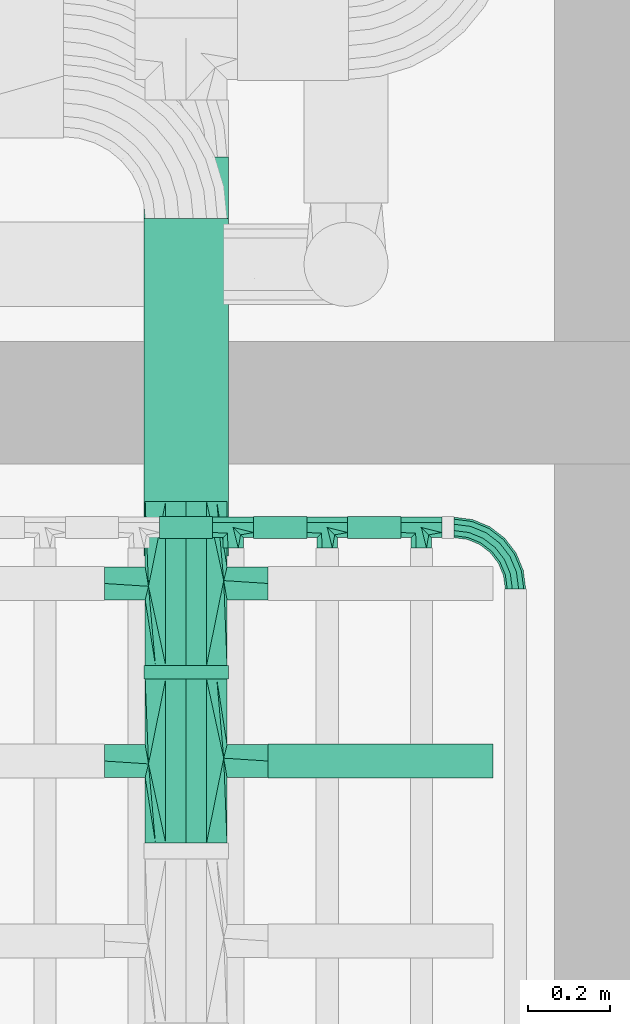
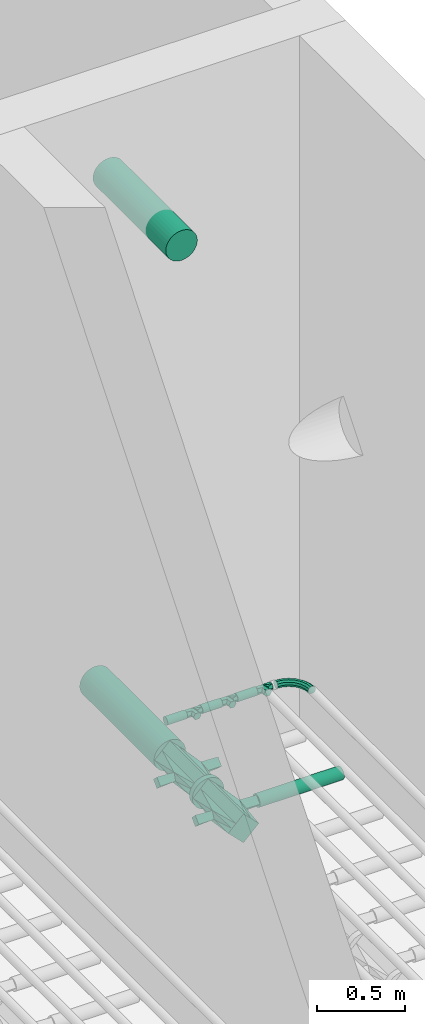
# One storey, part 23 of 28: 7 flow segments, 6 flow fittings.
"""IFC2X3 building model written with IfcOpenShell, lengths in millimetres."""

from ifc_helpers import new_model, entity, si_unit, converted_unit, direction, frame, frame_2d, origin, origin_2d_with_axis, place, context, subcontext, project, spatial, circle, extrude, faceted_brep, source, transform, mapped, material, type_object, type_shapes, element, save


model = new_model("IFC2X3")

# Units and contexts
model_context = context("Model", 3, precision=0.01, world=origin(), true_north=direction((6.123031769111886e-17, 1.0)))
body_context = subcontext(model_context, "Body", "Model", "MODEL_VIEW")
ifc_project = project(units=[si_unit("LENGTHUNIT", "METRE", prefix="MILLI"), converted_unit("PLANEANGLEUNIT", "DEGREE", entity("IfcPlaneAngleMeasure", 0.017453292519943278), si_unit("PLANEANGLEUNIT", "RADIAN"), dimensions=[0, 0, 0, 0, 0, 0, 0]), si_unit("AREAUNIT", "SQUARE_METRE")], contexts=[model_context])

# Site, building, storey
site_placement = place(None, frame((7776.576483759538, 118.3519876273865, 0.0)))
site = spatial("IfcSite", under=ifc_project, at=site_placement, Name="Default", CompositionType="ELEMENT")
building_placement = place(site_placement, origin())
building = spatial("IfcBuilding", under=site, at=building_placement, Name="Bygning (endres i Project Information)", CompositionType="ELEMENT")
storey_placement = place(building_placement, frame((0.0, 0.0, 14000.0)))
storey = spatial("IfcBuildingStorey", under=building, at=storey_placement, Name="Plan U1 - Arbeid", CompositionType="ELEMENT", Elevation=14000.000000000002)

# Flow segments
ifc_material = material(Name="SS 2343 Rustfritt stål, prosessrør, generisk")
pipe_segment_type = type_object("IfcPipeSegmentType", Name="Pipe Types:AISI 304L Rustfritt", PredefinedType="NOTDEFINED", material=ifc_material)
flow_segment_1_placement = place(storey_placement, origin())
element("IfcFlowSegment", 1, at=flow_segment_1_placement, inside=storey, type_object=pipe_segment_type, Name="Pipe Types:AISI 304L Rustfritt", ObjectType="Pipe Types:AISI 304L Rustfritt", context=body_context, shape_type="SweptSolid", body=[
    extrude(circle(Radius=103.0, at=frame_2d((0.0, 2.1657342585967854e-12), x_axis=(1.0, 0.0))), frame((31074.00137486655, 23972.377048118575, 3803.0), z_axis=(0.0, 1.0, 0.0), x_axis=(-1.0, 0.0, 0.0)), (0.0, 0.0, 1.0), 825.3802576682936),
])
flow_segment_2_placement = place(storey_placement, origin())
element("IfcFlowSegment", 2, at=flow_segment_2_placement, inside=storey, type_object=pipe_segment_type, Name="Pipe Types:AISI 304L Rustfritt", ObjectType="Pipe Types:AISI 304L Rustfritt", context=body_context, shape_type="SweptSolid", body=[
    extrude(circle(Radius=103.0, at=frame_2d((-4.331468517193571e-12, 0.0), x_axis=(1.0, 0.0))), frame((31074.001374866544, 24105.757305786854, 203.0), z_axis=(0.0, 1.0, 0.0), x_axis=(-1.0, 0.0, 0.0)), (0.0, 0.0, 1.0), 841.9999999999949),
])
flow_segment_3_placement = place(storey_placement, origin())
element("IfcFlowSegment", 3, at=flow_segment_3_placement, inside=storey, type_object=pipe_segment_type, Name="Pipe Types:AISI 304L Rustfritt", ObjectType="Pipe Types:AISI 304L Rustfritt", context=body_context, shape_type="SweptSolid", body=[
    extrude(circle(Radius=42.0, at=origin_2d_with_axis()), frame((31274.00137486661, 23471.757305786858, 203.0), z_axis=(1.0, 0.0, 0.0), x_axis=(0.0, -1.0, 0.0)), (0.0, 0.0, 1.0), 549.99999999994),
])
flow_segment_4_placement = place(storey_placement, origin())
element("IfcFlowSegment", 4, at=flow_segment_4_placement, inside=storey, type_object=pipe_segment_type, Name="Pipe Types:AISI 304L Rustfritt", ObjectType="Pipe Types:AISI 304L Rustfritt", context=body_context, shape_type="SweptSolid", body=[
    extrude(circle(Radius=103.0, at=origin_2d_with_axis()), frame((31074.001374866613, 23671.757305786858, 203.0), z_axis=(0.0, 1.0, 0.0), x_axis=(-1.0, 0.0, 0.0)), (0.0, 0.0, 1.0), 33.999999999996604),
])
flow_segment_5_placement = place(storey_placement, origin())
element("IfcFlowSegment", 5, at=flow_segment_5_placement, inside=storey, type_object=pipe_segment_type, Name="Pipe Types:AISI 304L Rustfritt", ObjectType="Pipe Types:AISI 304L Rustfritt", context=body_context, shape_type="SweptSolid", body=[
    extrude(circle(Radius=27.0, at=frame_2d((0.0, -2.1657342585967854e-12), x_axis=(1.0, 0.0))), frame((31009.001374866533, 24042.757305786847, 500.0), z_axis=(1.0, 0.0, 0.0), x_axis=(0.0, -1.0, 0.0)), (0.0, 0.0, 1.0), 130.00000000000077),
])
flow_segment_6_placement = place(storey_placement, origin())
element("IfcFlowSegment", 6, at=flow_segment_6_placement, inside=storey, type_object=pipe_segment_type, Name="Pipe Types:AISI 304L Rustfritt", ObjectType="Pipe Types:AISI 304L Rustfritt", context=body_context, shape_type="SweptSolid", body=[
    extrude(circle(Radius=27.0, at=frame_2d((0.0, -2.1657342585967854e-12), x_axis=(1.0, 0.0))), frame((31239.001374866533, 24042.757305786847, 500.0), z_axis=(1.0, 0.0, 0.0), x_axis=(0.0, -1.0, 0.0)), (0.0, 0.0, 1.0), 130.00000000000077),
])
flow_segment_7_placement = place(storey_placement, origin())
element("IfcFlowSegment", 7, at=flow_segment_7_placement, inside=storey, type_object=pipe_segment_type, Name="Pipe Types:AISI 304L Rustfritt", ObjectType="Pipe Types:AISI 304L Rustfritt", context=body_context, shape_type="SweptSolid", body=[
    extrude(circle(Radius=27.0, at=frame_2d((0.0, -2.1657342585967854e-12), x_axis=(1.0, 0.0))), frame((31469.001374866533, 24042.757305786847, 500.0), z_axis=(1.0, 0.0, 0.0), x_axis=(0.0, -1.0, 0.0)), (0.0, 0.0, 1.0), 130.00000000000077),
])

# Flow fittings
pipe_fitting_type_1 = type_object("IfcPipeFittingType", Name="VA_prosess_rustfritt_kryss:VA_prosess_rustfritt_kryss", PredefinedType="NOTDEFINED", material=ifc_material)
shared_shape_1 = source(origin(), body_context, "Body", "Brep", [
    faceted_brep([(-200.0, -100.0, 0.0), (-200.0, -50.0, 50.0), (-200.0, 0.0, 100.0), (-200.0, 50.0, 50.0), (-200.0, 75.0, 25.0), (-200.0, 100.0, 0.0), (-200.0, 50.0, -50.0), (-200.0, 0.0, -100.0), (-200.0, -50.0, -50.0), (-200.0, -75.0, -25.0), (200.0, 50.0, -50.0), (200.0, 75.0, -25.0), (200.0, 100.0, 0.0), (200.0, 50.0, 50.0), (200.0, 0.0, 100.0), (200.0, -50.0, 50.0), (200.0, -75.0, 25.0), (200.0, -100.0, 0.0), (200.0, -50.0, -50.0), (200.0, 0.0, -100.0), (40.0, -100.0, 0.0), (-7.006670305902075, 91.91895032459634, 39.381551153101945), (-40.0, -100.0, 0.0), (-28.24833242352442, -97.97973758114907, 9.845387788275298), (-16.496664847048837, -95.9594751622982, 19.690775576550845), (-4.744997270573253, -93.93921274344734, 29.53616336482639), (7.00667030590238, -91.91895032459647, 39.38155115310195), (23.50333515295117, -95.95947516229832, 19.690775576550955), (-23.503335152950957, 95.95947516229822, 19.69077557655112), (-40.0, 100.0, 0.0), (40.0, 100.0, 0.0), (28.248332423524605, 97.97973758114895, 9.845387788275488), (16.496664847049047, 95.95947516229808, 19.690775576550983), (4.744997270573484, 93.93921274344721, 29.536163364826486), (-7.017574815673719, -91.91978218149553, -39.37960949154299), (-23.508787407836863, -95.95989109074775, -19.68980474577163), (-28.245606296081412, 97.97994554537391, -9.844902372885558), (-16.491212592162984, 95.95989109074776, -19.689804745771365), (-4.736818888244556, 93.93983663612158, -29.534707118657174), (7.017574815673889, 91.91978218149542, -39.37960949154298), (23.508787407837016, 95.95989109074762, -19.689804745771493), (28.24560629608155, -97.97994554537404, -9.844902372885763), (16.49121259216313, -95.95989109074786, -19.689804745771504), (4.736818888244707, -93.9398366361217, -29.53470711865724), (19.233483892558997, -200.0, -20.76651610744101), (29.616741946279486, -200.0, -10.383258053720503), (40.0, -200.0, 0.0), (20.0, -200.0, 20.0), (0.0, -200.0, 40.0), (-19.2334837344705, -200.0, 20.76651626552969), (-29.616741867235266, -200.0, 10.383258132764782), (-40.0, -200.0, 0.0), (-20.0, -200.0, -20.0), (0.0, -200.0, -40.0), (-19.23348389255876, 200.0, -20.766516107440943), (-29.616741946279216, 200.0, -10.38325805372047), (-40.0, 200.0, 0.0), (-20.0, 200.0, 20.0), (0.0, 200.0, 40.0), (19.233483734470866, 200.0, 20.76651626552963), (29.616741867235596, 200.0, 10.383258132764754), (40.0, 200.0, 0.0), (20.0, 200.0, -20.0), (0.0, 200.0, -40.0)], [[[0, 1, 2, 3, 4, 5, 6, 7, 8, 9]], [[10, 11, 12, 13, 14, 15, 16, 17, 18, 19]], [[17, 16, 20]], [[15, 14, 2, 1]], [[3, 13, 21]], [[0, 22, 23, 24, 25, 26]], [[0, 26, 1]], [[16, 26, 27, 20]], [[4, 21, 28, 29]], [[21, 13, 12]], [[26, 16, 15]], [[12, 30, 31, 32, 33, 21]], [[29, 5, 4]], [[2, 14, 13, 3]], [[21, 4, 3]], [[1, 26, 15]], [[11, 30, 12]], [[10, 19, 7, 6]], [[34, 9, 8]], [[9, 34, 35, 22]], [[5, 29, 36, 37, 38, 39]], [[39, 11, 10]], [[5, 39, 6]], [[34, 18, 17]], [[11, 39, 40, 30]], [[17, 20, 41, 42, 43, 34]], [[22, 0, 9]], [[7, 19, 18, 8]], [[6, 39, 10]], [[8, 18, 34]], [[44, 45, 46, 47, 48, 49, 50, 51, 52, 53]], [[25, 24, 23, 49]], [[49, 23, 50]], [[50, 22, 51]], [[49, 48, 25]], [[26, 48, 47]], [[47, 27, 26]], [[20, 27, 46]], [[46, 27, 47]], [[48, 26, 25]], [[22, 50, 23]], [[43, 42, 41, 44]], [[44, 41, 45]], [[45, 20, 46]], [[44, 53, 43]], [[34, 53, 52]], [[52, 35, 34]], [[22, 35, 51]], [[51, 35, 52]], [[53, 34, 43]], [[20, 45, 41]], [[54, 55, 56, 57, 58, 59, 60, 61, 62, 63]], [[33, 32, 31, 59]], [[59, 31, 60]], [[60, 30, 61]], [[59, 58, 33]], [[21, 58, 57]], [[57, 28, 21]], [[29, 28, 56]], [[56, 28, 57]], [[58, 21, 33]], [[30, 60, 31]], [[38, 37, 36, 54]], [[54, 36, 55]], [[55, 29, 56]], [[54, 63, 38]], [[39, 63, 62]], [[62, 40, 39]], [[30, 40, 61]], [[61, 40, 62]], [[63, 39, 38]], [[29, 55, 36]]]),
])
type_shapes(pipe_fitting_type_1, [shared_shape_1])
for number, where, z_axis, x_axis in (
    (8, (31074.001374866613, 23905.757305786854, 203.0), (0.0, 0.0, 1.0), (0.0, 1.0, 0.0)),
    (9, (31074.001374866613, 23471.757305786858, 203.0), (0.0, 0.0, 1.0), (0.0, 1.0, 0.0)),
):
    element("IfcFlowFitting", number, at=place(storey_placement, frame(where, z_axis=z_axis, x_axis=x_axis)), inside=storey, type_object=pipe_fitting_type_1, material=ifc_material, Name="VA_prosess_rustfritt_kryss:VA_prosess_rustfritt_kryss", ObjectType="VA_prosess_rustfritt_kryss:VA_prosess_rustfritt_kryss", context=body_context, shape_type="MappedRepresentation", body=[
        mapped(shared_shape_1, transform((0.0, 0.0, 0.0), scale=1.0)),
    ])
pipe_fitting_type_2 = type_object("IfcPipeFittingType", Name="VA_prosess_rustfritt_bend_D+100:VA_prosess_rustfritt_bend_D+100", PredefinedType="NOTDEFINED", material=ifc_material)
shared_shape_2 = source(origin(), body_context, "Body", "Brep", [
    faceted_brep([(-104.70666710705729, -19.03701960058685, 0.0), (-105.9424180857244, -14.425134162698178, 14.694631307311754), (-150.0, -20.22542485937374, 14.694631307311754), (-150.0, -25.0, 0.0), (-109.17765614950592, -2.351061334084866, 23.776412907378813), (-150.0, -7.725424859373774, 23.776412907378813), (-113.17663031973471, 12.573313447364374, 23.776412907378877), (-150.0, 7.725424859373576, 23.776412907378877), (-116.41186838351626, 24.647386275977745, 14.694631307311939), (-150.0, 20.225424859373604, 14.694631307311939), (-117.6476193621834, 29.259271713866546, 0.0), (-150.0, 25.0, 0.0), (-116.41186838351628, 24.647386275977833, -14.69463130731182), (-150.0, 20.225424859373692, -14.69463130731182), (-113.17663031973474, 12.573313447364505, -23.77641290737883), (-150.0, 7.725424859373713, -23.77641290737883), (-109.17765614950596, -2.351061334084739, -23.776412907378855), (-150.0, -7.725424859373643, -23.776412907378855), (-105.94241808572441, -14.425134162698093, -14.694631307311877), (-150.0, -20.22542485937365, -14.694631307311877), (-62.49999999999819, -1.554445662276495, 0.0), (-64.88728757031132, 2.5804577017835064, 14.694631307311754), (-71.13728757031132, 13.405775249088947, 23.776412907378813), (-78.86271242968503, 26.78660361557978, 23.776412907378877), (-85.11271242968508, 37.61192116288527, 14.694631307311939), (-87.49999999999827, 41.746824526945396, 0.0), (-85.11271242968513, 37.611921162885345, -14.69463130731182), (-78.8627124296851, 26.786603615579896, -23.77641290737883), (-71.13728757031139, 13.40577524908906, -23.776412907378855), (-64.88728757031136, 2.5804577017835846, -14.694631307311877), (-26.256313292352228, 26.25631329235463, 0.0), (-29.63244775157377, 29.632447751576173, 14.694631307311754), (-38.47128251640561, 38.471282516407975, 23.776412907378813), (-49.396683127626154, 49.39668312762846, 23.776412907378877), (-58.235517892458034, 58.23551789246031, 14.694631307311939), (-61.611652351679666, 61.61165235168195, 0.0), (-58.23551789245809, 58.235517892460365, -14.69463130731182), (-49.39668312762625, 49.396683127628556, -23.77641290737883), (-38.4712825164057, 38.47128251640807, -23.776412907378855), (-29.632447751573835, 29.632447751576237, -14.694631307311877), (1.5544456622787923, 62.50000000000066, 0.0), (-2.580457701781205, 64.8872875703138, 14.694631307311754), (-13.405775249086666, 71.13728757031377, 23.776412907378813), (-26.78660361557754, 78.86271242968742, 23.776412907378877), (-37.61192116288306, 85.1127124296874, 14.694631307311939), (-41.746824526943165, 87.50000000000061, 0.0), (-37.611921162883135, 85.11271242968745, -14.69463130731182), (-26.786603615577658, 78.86271242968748, -23.77641290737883), (-13.40577524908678, 71.13728757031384, -23.776412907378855), (-2.5804577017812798, 64.88728757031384, -14.694631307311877), (19.037019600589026, 104.70666710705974, 0.0), (14.425134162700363, 105.94241808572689, 14.694631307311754), (2.351061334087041, 109.17765614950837, 23.776412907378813), (-12.57331344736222, 113.17663031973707, 23.776412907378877), (-24.647386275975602, 116.41186838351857, 14.694631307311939), (-29.259271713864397, 117.64761936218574, 0.0), (-24.64738627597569, 116.4118683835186, -14.69463130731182), (-12.573313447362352, 113.17663031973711, -23.77641290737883), (2.351061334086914, 109.1776561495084, -23.776412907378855), (14.425134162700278, 105.9424180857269, -14.694631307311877), (25.0, 150.0, 0.0), (20.22542485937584, 150.0, 14.694631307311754), (7.725424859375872, 150.0, 23.776412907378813), (-7.725424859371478, 150.0, 23.776412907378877), (-20.225424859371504, 150.0, 14.694631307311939), (-25.0, 150.0, 0.0), (-20.225424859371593, 150.0, -14.69463130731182), (-7.725424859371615, 150.0, -23.77641290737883), (7.725424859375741, 150.0, -23.776412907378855), (20.22542485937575, 150.0, -14.694631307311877)], [[[0, 1, 2, 3]], [[1, 4, 5, 2]], [[4, 6, 7, 5]], [[6, 8, 9, 7]], [[8, 10, 11, 9]], [[10, 12, 13, 11]], [[12, 14, 15, 13]], [[14, 16, 17, 15]], [[16, 18, 19, 17]], [[18, 0, 3, 19]], [[20, 21, 1, 0]], [[21, 22, 4, 1]], [[22, 23, 6, 4]], [[23, 24, 8, 6]], [[24, 25, 10, 8]], [[25, 26, 12, 10]], [[26, 27, 14, 12]], [[27, 28, 16, 14]], [[28, 29, 18, 16]], [[29, 20, 0, 18]], [[30, 31, 21, 20]], [[31, 32, 22, 21]], [[32, 33, 23, 22]], [[33, 34, 24, 23]], [[34, 35, 25, 24]], [[35, 36, 26, 25]], [[36, 37, 27, 26]], [[37, 38, 28, 27]], [[38, 39, 29, 28]], [[39, 30, 20, 29]], [[40, 41, 31, 30]], [[41, 42, 32, 31]], [[42, 43, 33, 32]], [[43, 44, 34, 33]], [[44, 45, 35, 34]], [[45, 46, 36, 35]], [[46, 47, 37, 36]], [[47, 48, 38, 37]], [[48, 49, 39, 38]], [[49, 40, 30, 39]], [[50, 51, 41, 40]], [[51, 52, 42, 41]], [[52, 53, 43, 42]], [[53, 54, 44, 43]], [[54, 55, 45, 44]], [[55, 56, 46, 45]], [[56, 57, 47, 46]], [[57, 58, 48, 47]], [[58, 59, 49, 48]], [[59, 50, 40, 49]], [[60, 61, 51, 50]], [[61, 62, 52, 51]], [[62, 63, 53, 52]], [[63, 64, 54, 53]], [[64, 65, 55, 54]], [[65, 66, 56, 55]], [[66, 67, 57, 56]], [[67, 68, 58, 57]], [[68, 69, 59, 58]], [[69, 60, 50, 59]], [[3, 2, 5, 7, 9, 11, 13, 15, 17, 19]], [[69, 68, 67, 66, 65, 64, 63, 62, 61, 60]]]),
])
type_shapes(pipe_fitting_type_2, [shared_shape_2])
flow_fitting_placement = place(storey_placement, frame((31879.00137486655, 24042.757305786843, 500.0), z_axis=(0.0, 0.0, 1.0), x_axis=(0.0, 1.0, 0.0)))
element("IfcFlowFitting", 10, at=flow_fitting_placement, inside=storey, type_object=pipe_fitting_type_2, material=ifc_material, Name="VA_prosess_rustfritt_bend_D+100:VA_prosess_rustfritt_bend_D+100", ObjectType="VA_prosess_rustfritt_bend_D+100:VA_prosess_rustfritt_bend_D+100", context=body_context, shape_type="MappedRepresentation", body=[
    mapped(shared_shape_2, transform((0.0, 0.0, 0.0), scale=1.0)),
])
pipe_fitting_type_3 = type_object("IfcPipeFittingType", Name="VA_prosess_rustfritt_T_D=L:T-rør_prosess_D=L", PredefinedType="NOTDEFINED", material=ifc_material)
shared_shape_3 = source(origin(), body_context, "Body", "Brep", [
    faceted_brep([(-50.0, 12.499999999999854, 21.650635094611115), (-50.0, 18.74999999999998, 10.825317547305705), (-50.0, 25.0, 0.0), (-50.0, 19.790105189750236, -9.023802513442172), (-50.0, 12.50000000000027, -21.65063509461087), (-50.0, 0.0, -21.650635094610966), (-50.0, -12.499999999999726, -21.65063509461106), (-50.0, -18.74999999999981, -10.825317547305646), (-50.0, -25.0, 0.0), (-50.0, -21.874999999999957, 5.412658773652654), (-50.0, -18.750000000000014, 10.825317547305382), (-50.0, -12.50000000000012, 21.650635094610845), (-50.0, 0.0, 21.65063509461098), (50.0, 0.0, -21.650635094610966), (50.0, 12.499999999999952, -21.65063509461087), (50.0, 18.749999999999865, -10.825317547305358), (50.0, 25.0, 0.0), (50.0, 18.749999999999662, 10.825317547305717), (50.0, 12.499999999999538, 21.650635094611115), (50.0, 0.0, 21.65063509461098), (50.0, -12.500000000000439, 21.650635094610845), (50.0, -18.750000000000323, 10.825317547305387), (50.0, -25.0, 0.0), (50.0, -21.875000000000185, -5.41265877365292), (50.0, -18.75000000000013, -10.825317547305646), (50.0, -12.500000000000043, -21.65063509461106), (21.570584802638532, -21.570584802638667, 8.600842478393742), (18.14116960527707, -18.141169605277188, 17.20168495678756), (0.0, 0.0, 25.0), (-20.11623159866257, -20.11623159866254, 9.202284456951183), (-14.012032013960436, -14.01203201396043, 20.704177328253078), (25.0, -25.0, 0.0), (-25.0, -25.0, 0.0), (-19.50601600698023, -19.506016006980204, 10.352088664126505), (20.11623207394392, -20.11623207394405, -9.20228356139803), (-21.570584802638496, -21.570584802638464, -8.600842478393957), (0.0, 0.0, -25.0), (19.506016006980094, -19.50601600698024, -10.35208866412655), (14.012032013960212, -14.012032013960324, -20.7041773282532), (-18.141169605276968, -18.14116960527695, -17.201684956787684), (12.5, -50.0, -21.65063509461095), (19.790105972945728, -50.0, -9.023801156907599), (25.0, -50.0, 0.0), (18.74999999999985, -50.0, 10.82531754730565), (12.499999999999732, -50.0, 21.650635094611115), (0.0, -50.0, 21.65063509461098), (-12.500000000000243, -50.0, 21.650635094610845), (-19.79010601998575, -50.0, 9.023801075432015), (-25.0, -50.0, 0.0), (-18.75, -50.0, -10.825317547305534), (-12.49999999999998, -50.0, -21.65063509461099), (0.0, -50.0, -21.65063509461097)], [[[0, 1, 2, 3, 4, 5, 6, 7, 8, 9, 10, 11, 12]], [[13, 14, 15, 16, 17, 18, 19, 20, 21, 22, 23, 24, 25]], [[26, 22, 21]], [[27, 21, 20]], [[28, 20, 19, 18]], [[29, 10, 9]], [[11, 10, 30]], [[21, 27, 26]], [[22, 26, 31]], [[8, 32, 9]], [[20, 28, 27]], [[10, 29, 33, 30]], [[2, 1, 0, 18, 17, 16]], [[30, 12, 11]], [[30, 28, 12]], [[0, 28, 18]], [[32, 29, 9]], [[28, 0, 12]], [[4, 3, 2, 16, 15, 14]], [[31, 34, 23]], [[8, 35, 32]], [[4, 14, 36]], [[24, 34, 37, 38]], [[5, 4, 36, 6]], [[13, 25, 38]], [[31, 23, 22]], [[34, 24, 23]], [[38, 25, 24]], [[39, 6, 36]], [[7, 35, 8]], [[7, 39, 35]], [[36, 14, 13]], [[39, 7, 6]], [[38, 36, 13]], [[40, 41, 42, 43, 44, 45, 46, 47, 48, 49, 50, 51]], [[33, 46, 30]], [[32, 48, 47]], [[47, 33, 29, 32]], [[30, 46, 45]], [[27, 44, 43]], [[31, 43, 42]], [[46, 33, 47]], [[30, 45, 28]], [[43, 31, 26, 27]], [[28, 45, 44]], [[28, 44, 27]], [[37, 40, 38]], [[31, 42, 41]], [[41, 37, 34, 31]], [[38, 40, 51]], [[36, 50, 39]], [[32, 49, 48]], [[39, 50, 49]], [[40, 37, 41]], [[38, 51, 36]], [[49, 32, 35, 39]], [[36, 51, 50]]]),
])
type_shapes(pipe_fitting_type_3, [shared_shape_3])
for number, where, z_axis, x_axis in (
    (11, (31189.001374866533, 24042.757305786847, 500.0), (0.0, 0.0, -1.0), (-1.0, 0.0, 0.0)),
    (12, (31419.001374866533, 24042.757305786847, 500.0), (0.0, 0.0, -1.0), (-1.0, 0.0, 0.0)),
    (13, (31649.001374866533, 24042.757305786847, 500.0), (0.0, 0.0, -1.0), (-1.0, 0.0, 0.0)),
):
    element("IfcFlowFitting", number, at=place(storey_placement, frame(where, z_axis=z_axis, x_axis=x_axis)), inside=storey, type_object=pipe_fitting_type_3, material=ifc_material, Name="VA_prosess_rustfritt_T_D=L:T-rør_prosess_D=L", ObjectType="VA_prosess_rustfritt_T_D=L:T-rør_prosess_D=L", context=body_context, shape_type="MappedRepresentation", body=[
        mapped(shared_shape_3, transform((0.0, 0.0, 0.0), scale=1.0)),
    ])

save(model, "model.ifc")
